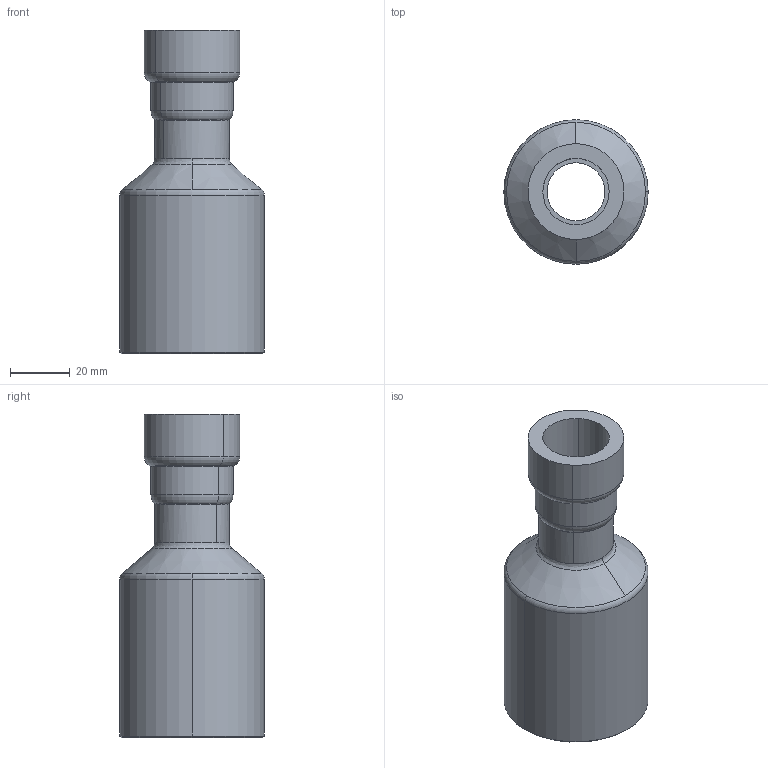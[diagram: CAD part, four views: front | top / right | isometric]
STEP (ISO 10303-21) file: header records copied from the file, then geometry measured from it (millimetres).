
FILE_DESCRIPTION(('Creo Elements/Direct Modeling STEP Export'),'2;1');
FILE_NAME('C9407_1-2_1-1-2.stp','2020-06-23T11:51:46',(''),(''),'PTC Creo Elements/Direct Modeling STEP processor for AP214 (Solid Model)','PTC Creo Elements/Direct Modeling 19.0C 15-Aug-2015 (C) Parametric Technology GmbH','');
FILE_SCHEMA(('AUTOMOTIVE_DESIGN { 1 0 10303 214 1 1 1 1 }'));
Length unit declared in the file: millimetre
Products named in the file (2): 9407_1-2_1-1-2
Assembly tree (1 placements, depth 2):
  9407_1-2_1-1-2
    9407_1-2_1-1-2
Bounding box: 48.3 x 48.3 x 108.1 mm (x, y, z)
Volume: 44888.6 mm3; surface area: 26062.5 mm2
Topology: 1 solids, 1 shells, 41 faces, 90 edges, 52 vertices
Faces by surface type: cylinder 14, cone 12, torus 10, plane 3, bspline 2
Entity records: 1343 total; most frequent: CARTESIAN_POINT 485, ORIENTED_EDGE 180, DIRECTION 168, EDGE_CURVE 90, AXIS2_PLACEMENT_3D 71, VERTEX_POINT 52, EDGE_LOOP 44, FACE_OUTER_BOUND 41
